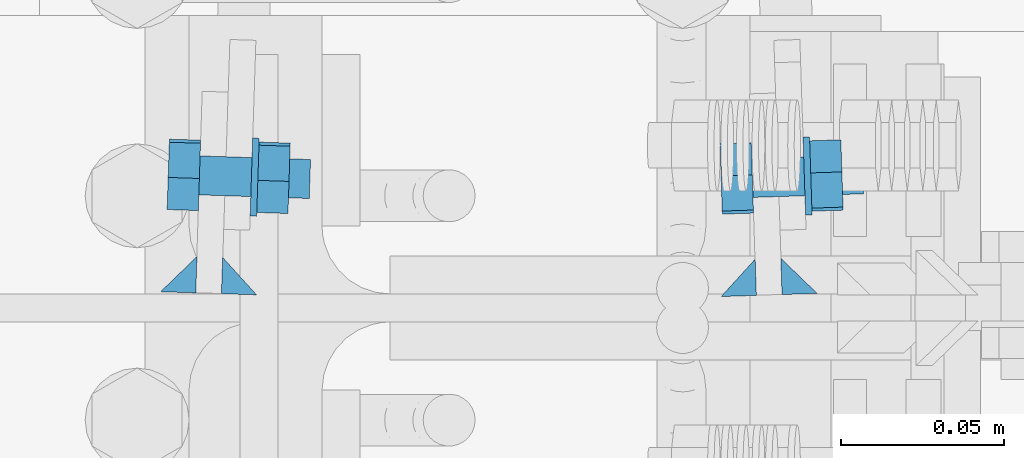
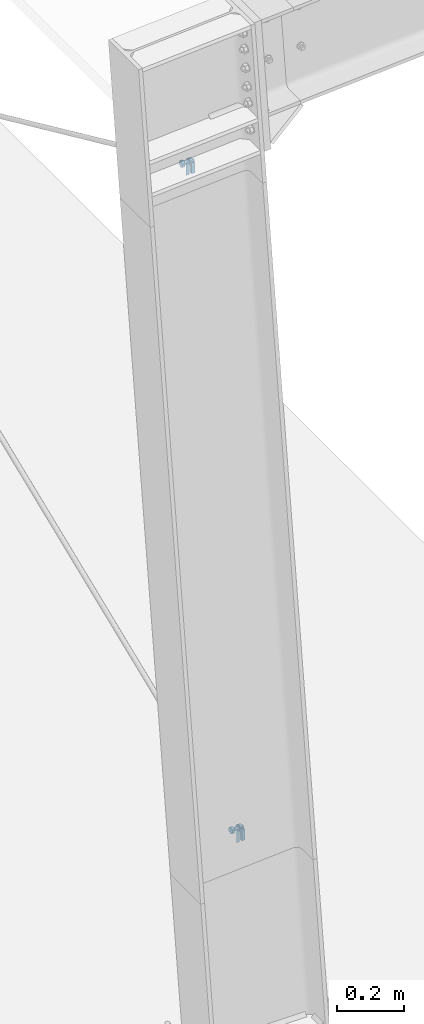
# One storey, part 25 of 72: 8 mechanical fasteners, 4 fasteners.
"""IFC4 building model written with IfcOpenShell, lengths in metres."""

import ifcopenshell
import ifcopenshell.guid

model = None  # the IFC model being written
_history = None  # IfcOwnerHistory: only IFC2X3 demands one
_inside = {}  # id of a spatial element -> (the spatial element, [elements in it])
_under = {}  # id of a project, library or spatial element -> (it, [spatial elements below it])
_declared = {}  # id of a project -> (the project, [libraries it declares])
_typed = {}  # id of a type object -> (the type object, [elements of that type])
_made_of = {}  # id of a material, layer set ... -> (it, [elements and type objects made of it])


def new_model(schema):
    """Start an empty IFC model of exactly this schema.

    Asked for "IFC4X3", IfcOpenShell would pick the latest addendum, in which some entities
    have other attributes; the version numbers below select the first issue.
    IFC2X3 requires an IfcOwnerHistory on every rooted entity: one is made here for all.
    """
    global model, _history
    if schema == "IFC4X3":
        model = ifcopenshell.file(schema_version=(4, 3, 0, 0))
    else:
        model = ifcopenshell.file(schema=schema)
    _inside.clear()
    _under.clear()
    _declared.clear()
    _typed.clear()
    _made_of.clear()
    _history = None
    if model.schema == "IFC2X3":
        org = make("IfcOrganization", Name="unknown")
        user = make(
            "IfcPersonAndOrganization",
            ThePerson=make("IfcPerson", FamilyName="unknown"),
            TheOrganization=org,
        )
        app = make(
            "IfcApplication",
            ApplicationDeveloper=org,
            Version="unknown",
            ApplicationFullName="unknown",
            ApplicationIdentifier="unknown",
        )
        _history = make(
            "IfcOwnerHistory",
            OwningUser=user,
            OwningApplication=app,
            ChangeAction="ADDED",
            CreationDate=0,
        )
    return model


def make(cls, **values):
    """One entity of the class cls with the attributes given. An attribute that is None is left unset."""
    return model.create_entity(
        cls, **{name: value for name, value in values.items() if value is not None}
    )


def rooted(cls, **values):
    """An entity with a GlobalId (a new one), such as an element, a storey or a relation."""
    return make(cls, GlobalId=ifcopenshell.guid.new(), OwnerHistory=_history, **values)


def si_unit(unit_type, name, prefix=None):
    """IfcSIUnit, for example si_unit("LENGTHUNIT", "METRE", prefix="MILLI")."""
    return make("IfcSIUnit", UnitType=unit_type, Prefix=prefix, Name=name)


def assignment(units):
    """IfcUnitAssignment: the units of a project."""
    return None if units is None else make("IfcUnitAssignment", Units=units)


def point(xyz):
    """IfcCartesianPoint."""
    return None if xyz is None else make("IfcCartesianPoint", Coordinates=xyz)


def direction(xyz):
    """IfcDirection."""
    return None if xyz is None else make("IfcDirection", DirectionRatios=xyz)


def frame(location, z_axis=None, x_axis=None):
    """IfcAxis2Placement3D, a coordinate frame: its origin and axes. An axis left out is left unset."""
    return make(
        "IfcAxis2Placement3D",
        Location=point(location),
        Axis=direction(z_axis),
        RefDirection=direction(x_axis),
    )


def origin_with_axes():
    """The frame at (0, 0, 0) with the z axis (0, 0, 1) and the x axis (1, 0, 0) written out."""
    return frame((0.0, 0.0, 0.0), z_axis=(0.0, 0.0, 1.0), x_axis=(1.0, 0.0, 0.0))


def place(relative_to, where):
    """IfcLocalPlacement: puts the frame where relative to a parent placement (None: the world)."""
    return make(
        "IfcLocalPlacement", PlacementRelTo=relative_to, RelativePlacement=where
    )


def context(
    kind, dimensions, precision=None, world=None, true_north=None, identifier=None
):
    """IfcGeometricRepresentationContext, for example the 3D "Model" context."""
    return make(
        "IfcGeometricRepresentationContext",
        ContextIdentifier=identifier,
        ContextType=kind,
        CoordinateSpaceDimension=dimensions,
        Precision=precision,
        WorldCoordinateSystem=world,
        TrueNorth=true_north,
    )


def project(units=None, contexts=None):
    """IfcProject with its units and contexts."""
    return rooted(
        "IfcProject",
        Name="project",
        RepresentationContexts=contexts,
        UnitsInContext=assignment(units),
    )


def spatial(cls, under=None, at=None, **own):
    """A site, building, storey or space (cls), placed at a placement, below another one or the project."""
    s = rooted(cls, ObjectPlacement=at, **own)
    if under is not None:
        _under.setdefault(under.id(), (under, []))[1].append(s)
    return s


def polyline(points):
    """IfcPolyline through the points."""
    return make("IfcPolyline", Points=[point(p) for p in points])


def outline(outer, holes=None, kind="AREA"):
    """IfcArbitraryClosedProfileDef: a profile drawn as a closed curve; with holes, ...WithVoids."""
    if holes is None:
        return make("IfcArbitraryClosedProfileDef", ProfileType=kind, OuterCurve=outer)
    return make(
        "IfcArbitraryProfileDefWithVoids",
        ProfileType=kind,
        OuterCurve=outer,
        InnerCurves=holes,
    )


def extrude(swept, where, along, depth):
    """IfcExtrudedAreaSolid: the profile swept, set in the frame where, extruded along a direction by depth."""
    return make(
        "IfcExtrudedAreaSolid",
        SweptArea=swept,
        Position=where,
        ExtrudedDirection=direction(along),
        Depth=depth,
    )


def shape(context_of_items, identifier, shape_type, items):
    """IfcShapeRepresentation: the items that make up one representation, for example the "Body"."""
    return make(
        "IfcShapeRepresentation",
        ContextOfItems=context_of_items,
        RepresentationIdentifier=identifier,
        RepresentationType=shape_type,
        Items=items,
    )


def made_of(thing, what):
    """Note that an element or type object is made of a material, layer set ...; save() writes the relation."""
    if what is not None:
        _made_of.setdefault(what.id(), (what, []))[1].append(thing)
    return thing


def type_object(cls, material=None, **own):
    """A type object (cls), such as IfcWallType, which elements share."""
    return made_of(rooted(cls, **own), material)


def element(
    cls,
    number,
    at=None,
    inside=None,
    cuts=None,
    type_object=None,
    material=None,
    context=None,
    identifier="Body",
    shape_type=None,
    held_by="IfcProductDefinitionShape",
    body=None,
    shapes=None,
    **own,
):
    """One element of the class cls, such as IfcWall. Its Tag is "e" and its number.

    at: its placement. inside: the storey or other place that contains it. cuts: it is an
    opening in that element (IfcRelVoidsElement). A single representation is given by context,
    identifier, shape_type and body (its items); several are given by shapes. held_by: the class
    of the entity that holds the representations. save() writes the other relations.
    """
    e = rooted(cls, Tag="e%d" % number, ObjectPlacement=at, **own)
    if body is not None:
        shapes = [shape(context, identifier, shape_type, body)]
    if shapes is not None:
        e.Representation = make(held_by, Representations=shapes)
    if inside is not None:
        _inside.setdefault(inside.id(), (inside, []))[1].append(e)
    if cuts is not None:
        rooted(
            "IfcRelVoidsElement", RelatingBuildingElement=cuts, RelatedOpeningElement=e
        )
    if type_object is not None:
        _typed.setdefault(type_object.id(), (type_object, []))[1].append(e)
    return made_of(e, material)


def aggregate(whole, parts):
    """IfcRelAggregates: a whole, such as a stair, and the parts it consists of."""
    return rooted("IfcRelAggregates", RelatingObject=whole, RelatedObjects=parts)


def save(model, path):
    """Write the relations noted so far, then the file.

    IfcRelAggregates (storeys below a building ...), IfcRelContainedInSpatialStructure (elements
    in a storey), IfcRelDefinesByType, IfcRelAssociatesMaterial and IfcRelDeclares: one each for
    every whole, place, type object, material and project.
    """
    for whole, parts in _under.values():
        aggregate(whole, parts)
    for where, things in _inside.values():
        rooted(
            "IfcRelContainedInSpatialStructure",
            RelatedElements=things,
            RelatingStructure=where,
        )
    for kind, things in _typed.values():
        rooted("IfcRelDefinesByType", RelatedObjects=things, RelatingType=kind)
    for what, things in _made_of.values():
        rooted("IfcRelAssociatesMaterial", RelatedObjects=things, RelatingMaterial=what)
    for by, libraries in _declared.values():
        rooted("IfcRelDeclares", RelatingContext=by, RelatedDefinitions=libraries)
    model.write(path)


model = new_model("IFC4")

# Units and contexts
model_context = context("Model", 3, precision=1e-05, world=origin_with_axes())
ifc_project = project(units=[si_unit("LENGTHUNIT", "METRE"), si_unit("AREAUNIT", "SQUARE_METRE"), si_unit("VOLUMEUNIT", "CUBIC_METRE"), si_unit("MASSUNIT", "GRAM", prefix="KILO"), si_unit("TIMEUNIT", "SECOND"), si_unit("PLANEANGLEUNIT", "RADIAN"), si_unit("SOLIDANGLEUNIT", "STERADIAN"), si_unit("THERMODYNAMICTEMPERATUREUNIT", "DEGREE_CELSIUS")], contexts=[model_context])

# Site, building, storey
placement_1 = place(None, origin_with_axes())
site = spatial("IfcSite", under=ifc_project, at=placement_1, Name="Italia", CompositionType="ELEMENT")
building = spatial("IfcBuilding", under=site, at=placement_1, Name="Pensilina", CompositionType="ELEMENT")
storey = spatial("IfcBuildingStorey", under=building, at=placement_1, Name="Storey 0", CompositionType="ELEMENT", Elevation=0.0)

# Mechanical fasteners
mechanical_fastener_type_1 = type_object("IfcMechanicalFastenerType", Name="Collegamento -196_-202", PredefinedType="BOLT")
placement_2 = place(placement_1, origin_with_axes())
mechanical_fastener_1_placement = place(placement_2, origin_with_axes())
element("IfcMechanicalFastener", 1, at=mechanical_fastener_1_placement, inside=storey, type_object=mechanical_fastener_type_1, Name="Collegamento -196_-202", NominalDiameter=0.012, context=model_context, shape_type="SweptSolid", body=[
    extrude(outline(polyline([(0.0, 0.0, 0.0), (0.0108352, -0.00515747, 0.0), (0.0207192, 0.00164735, 0.0), (0.0197681, 0.0136096, 0.0), (0.00893295, 0.0187671, 0.0), (-0.000951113, 0.0119622, 0.0), (0.0, 0.0, 0.0)])), frame((0.87719, 0.0498844, 0.818423), z_axis=(-0.99946516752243, -0.0327018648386, 0.0), x_axis=(0.0327018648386, -0.99946516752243, 0.0)), (0.0, 0.0, 1.0), 0.00959999),
])
mechanical_fastener_type_2 = type_object("IfcMechanicalFastenerType", Name="Collegamento -196_-202", PredefinedType="BOLT")
mechanical_fastener_2_placement = place(placement_2, origin_with_axes())
element("IfcMechanicalFastener", 2, at=mechanical_fastener_2_placement, inside=storey, type_object=mechanical_fastener_type_2, Name="Collegamento -196_-202", NominalDiameter=0.012, context=model_context, shape_type="SweptSolid", body=[
    extrude(outline(polyline([(0.0, 0.0, 0.0), (-0.000204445, -0.00155294, 0.0), (-0.000803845, -0.00300002, 0.0), (-0.00175736, -0.00424266, 0.0), (-0.003, -0.00519615, 0.0), (-0.00444709, -0.00579554, 0.0), (-0.006, -0.00599998, 0.0), (-0.00755291, -0.00579554, 0.0), (-0.009, -0.00519615, 0.0), (-0.0102426, -0.00424266, 0.0), (-0.0111962, -0.00300002, 0.0), (-0.0117956, -0.00155294, 0.0), (-0.012, 0.0, 0.0), (-0.0117956, 0.00155294, 0.0), (-0.0111962, 0.00300002, 0.0), (-0.0102426, 0.00424266, 0.0), (-0.009, 0.00519615, 0.0), (-0.00755291, 0.00579554, 0.0), (-0.006, 0.00599998, 0.0), (-0.00444709, 0.00579554, 0.0), (-0.003, 0.00519615, 0.0), (-0.00175736, 0.00424266, 0.0), (-0.000803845, 0.00300002, 0.0), (-0.000204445, 0.00155294, 0.0), (0.0, 0.0, 0.0)])), frame((0.911691, 0.0351207, 0.825228), z_axis=(-0.99946516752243, -0.032701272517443, 0.0), x_axis=(0.032701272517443, -0.99946516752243, 0.0)), (0.0, 0.0, 1.0), 0.034),
])
mechanical_fastener_type_3 = type_object("IfcMechanicalFastenerType", Name="Collegamento -196_-202", PredefinedType="BOLT")
mechanical_fastener_3_placement = place(placement_2, origin_with_axes())
element("IfcMechanicalFastener", 3, at=mechanical_fastener_3_placement, inside=storey, type_object=mechanical_fastener_type_3, Name="Collegamento -196_-202", NominalDiameter=0.012, context=model_context, shape_type="SweptSolid", body=[
    extrude(outline(polyline([(0.0, 0.0, 0.0), (0.0108352, -0.00515747, 0.0), (0.0207192, 0.00164735, 0.0), (0.0197681, 0.0136096, 0.0), (0.00893295, 0.0187671, 0.0), (-0.000951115, 0.0119622, 0.0), (0.0, 0.0, 0.0)])), frame((0.904776, 0.0507869, 0.818423), z_axis=(-0.99946516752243, -0.0327018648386, 0.0), x_axis=(0.0327018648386, -0.99946516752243, 0.0)), (0.0, 0.0, 1.0), 0.00959999),
])
mechanical_fastener_type_4 = type_object("IfcMechanicalFastenerType", Name="Collegamento -196_-202", PredefinedType="BOLT")
mechanical_fastener_4_placement = place(placement_2, origin_with_axes())
element("IfcMechanicalFastener", 4, at=mechanical_fastener_4_placement, inside=storey, type_object=mechanical_fastener_type_4, Name="Collegamento -196_-202", NominalDiameter=0.024, context=model_context, shape_type="SweptSolid", body=[
    extrude(outline(polyline([(0.0, 0.0, 0.0), (-0.000408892, -0.00310582, 0.0), (-0.0016077, -0.00599998, 0.0), (-0.00351472, -0.00848526, 0.0), (-0.006, -0.0103923, 0.0), (-0.00889417, -0.0115911, 0.0), (-0.012, -0.012, 0.0), (-0.0151058, -0.0115911, 0.0), (-0.018, -0.0103923, 0.0), (-0.0204853, -0.00848526, 0.0), (-0.0223923, -0.00599998, 0.0), (-0.0235911, -0.00310582, 0.0), (-0.024, 0.0, 0.0), (-0.0235911, 0.00310582, 0.0), (-0.0223923, 0.00599998, 0.0), (-0.0204853, 0.00848526, 0.0), (-0.018, 0.0103923, 0.0), (-0.0151058, 0.0115911, 0.0), (-0.012, 0.012, 0.0), (-0.00889417, 0.0115911, 0.0), (-0.006, 0.0103923, 0.0), (-0.00351472, 0.00848526, 0.0), (-0.0016077, 0.00599998, 0.0), (-0.000408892, 0.00310582, 0.0), (0.0, 0.0, 0.0)])), frame((0.895896, 0.0286006, 0.825228), z_axis=(-0.99946516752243, -0.032701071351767, 0.0), x_axis=(0.032701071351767, -0.99946516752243, 0.0)), (0.0, 0.0, 1.0), 0.00199997),
])

# Fasteners
fastener_type_1 = type_object("IfcFastenerType", Name="Collegamento -196_-202", PredefinedType="WELD")
fastener_1_placement = place(placement_2, origin_with_axes())
element("IfcFastener", 5, at=fastener_1_placement, inside=storey, type_object=fastener_type_1, Name="Collegamento -196_-202", context=model_context, shape_type="SweptSolid", body=[
    extrude(outline(polyline([(0.0, 0.0, 0.0), (0.010813, -0.0111977, 0.0), (-0.000354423, -0.0108324, 0.0), (0.0, 0.0, 0.0)])), frame((0.897474, 0.00447214, 0.843087), z_axis=(0.0, -4.18049638e-07, -1.0), x_axis=(0.0, 1.0, 0.0)), (0.0, 0.0, 1.0), 0.0401),
])
fastener_type_2 = type_object("IfcFastenerType", Name="Collegamento -196_-202", PredefinedType="WELD")
fastener_2_placement = place(placement_2, origin_with_axes())
element("IfcFastener", 6, at=fastener_2_placement, inside=storey, type_object=fastener_type_2, Name="Collegamento -196_-202", context=model_context, shape_type="SweptSolid", body=[
    extrude(outline(polyline([(0.0, 0.0, 0.0), (0.0115218, -0.0104669, 0.0), (0.000354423, -0.0108324, 0.0), (0.0, 0.0, 0.0)])), frame((0.867914, 0.00350493, 0.802987), z_axis=(0.0, 4.12243395e-07, 1.0), x_axis=(0.0, 1.0, 0.0)), (0.0, 0.0, 1.0), 0.0401),
])

# Mechanical fasteners
mechanical_fastener_type_5 = type_object("IfcMechanicalFastenerType", Name="Collegamento -201_-197", PredefinedType="BOLT")
mechanical_fastener_5_placement = place(placement_2, origin_with_axes())
element("IfcMechanicalFastener", 7, at=mechanical_fastener_5_placement, inside=storey, type_object=mechanical_fastener_type_5, Name="Collegamento -201_-197", NominalDiameter=0.0119999, context=model_context, shape_type="SweptSolid", body=[
    extrude(outline(polyline([(0.0, 0.0, 0.0), (0.0108352, 0.00515747, 0.0), (0.0117863, 0.0171196, 0.0), (0.00190223, 0.0239244, 0.0), (-0.00893293, 0.0187671, 0.0), (-0.00988406, 0.0068047, 0.0), (0.0, 0.0, 0.0)])), frame((0.707433, 0.0417411, 3.28936), z_axis=(-0.99946516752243, 0.032701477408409, 0.0), x_axis=(-0.032701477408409, -0.99946516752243, 0.0)), (0.0, 0.0, 1.0), 0.00959999),
])
mechanical_fastener_type_6 = type_object("IfcMechanicalFastenerType", Name="Collegamento -201_-197", PredefinedType="BOLT")
mechanical_fastener_6_placement = place(placement_2, origin_with_axes())
element("IfcMechanicalFastener", 8, at=mechanical_fastener_6_placement, inside=storey, type_object=mechanical_fastener_type_6, Name="Collegamento -201_-197", NominalDiameter=0.012, context=model_context, shape_type="SweptSolid", body=[
    extrude(outline(polyline([(0.0, 0.0, 0.0), (-0.000204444, -0.00155282, 0.0), (-0.000803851, -0.00300002, 0.0), (-0.00175736, -0.00424266, 0.0), (-0.003, -0.00519609, 0.0), (-0.00444709, -0.00579548, 0.0), (-0.006, -0.00600004, 0.0), (-0.00755291, -0.00579548, 0.0), (-0.009, -0.00519609, 0.0), (-0.0102426, -0.00424266, 0.0), (-0.0111962, -0.00300002, 0.0), (-0.0117956, -0.00155282, 0.0), (-0.012, 0.0, 0.0), (-0.0117956, 0.00155282, 0.0), (-0.0111962, 0.00300002, 0.0), (-0.0102426, 0.00424266, 0.0), (-0.009, 0.00519609, 0.0), (-0.00755291, 0.00579548, 0.0), (-0.006, 0.00600004, 0.0), (-0.00444709, 0.00579548, 0.0), (-0.003, 0.00519609, 0.0), (-0.00175736, 0.00424266, 0.0), (-0.000803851, 0.00300002, 0.0), (-0.000204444, 0.00155282, 0.0), (0.0, 0.0, 0.0)])), frame((0.741187, 0.0336819, 3.30132), z_axis=(-0.99946516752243, 0.032701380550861, 0.0), x_axis=(-0.032701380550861, -0.99946516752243, 0.0)), (0.0, 0.0, 1.0), 0.034),
])
mechanical_fastener_type_7 = type_object("IfcMechanicalFastenerType", Name="Collegamento -201_-197", PredefinedType="BOLT")
mechanical_fastener_7_placement = place(placement_2, origin_with_axes())
element("IfcMechanicalFastener", 9, at=mechanical_fastener_7_placement, inside=storey, type_object=mechanical_fastener_type_7, Name="Collegamento -201_-197", NominalDiameter=0.0119999, context=model_context, shape_type="SweptSolid", body=[
    extrude(outline(polyline([(0.0, 0.0, 0.0), (0.0108352, 0.00515747, 0.0), (0.0117863, 0.0171196, 0.0), (0.00190223, 0.0239244, 0.0), (-0.00893293, 0.0187671, 0.0), (-0.00988405, 0.0068047, 0.0), (0.0, 0.0, 0.0)])), frame((0.735018, 0.0408385, 3.28936), z_axis=(-0.99946516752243, 0.032701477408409, 0.0), x_axis=(-0.032701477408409, -0.99946516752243, 0.0)), (0.0, 0.0, 1.0), 0.00959999),
])
mechanical_fastener_type_8 = type_object("IfcMechanicalFastenerType", Name="Collegamento -201_-197", PredefinedType="BOLT")
mechanical_fastener_8_placement = place(placement_2, origin_with_axes())
element("IfcMechanicalFastener", 10, at=mechanical_fastener_8_placement, inside=storey, type_object=mechanical_fastener_type_8, Name="Collegamento -201_-197", NominalDiameter=0.024, context=model_context, shape_type="SweptSolid", body=[
    extrude(outline(polyline([(0.0, 0.0, 0.0), (-0.000408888, -0.00310588, 0.0), (-0.00160769, -0.00600004, 0.0), (-0.00351472, -0.00848532, 0.0), (-0.006, -0.0103922, 0.0), (-0.00889417, -0.0115912, 0.0), (-0.012, -0.0120001, 0.0), (-0.0151058, -0.0115912, 0.0), (-0.018, -0.0103922, 0.0), (-0.0204853, -0.00848532, 0.0), (-0.0223923, -0.00600004, 0.0), (-0.0235911, -0.00310588, 0.0), (-0.024, 0.0, 0.0), (-0.0235911, 0.00310588, 0.0), (-0.0223923, 0.00600004, 0.0), (-0.0204853, 0.00848532, 0.0), (-0.018, 0.0103922, 0.0), (-0.0151058, 0.0115912, 0.0), (-0.012, 0.0120001, 0.0), (-0.00889417, 0.0115912, 0.0), (-0.006, 0.0103922, 0.0), (-0.00351472, 0.00848532, 0.0), (-0.00160769, 0.00600004, 0.0), (-0.000408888, 0.00310588, 0.0), (0.0, 0.0, 0.0)])), frame((0.725, 0.0282083, 3.30132), z_axis=(-0.999465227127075, 0.032700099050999, 0.0), x_axis=(-0.032700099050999, -0.999465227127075, 0.0)), (0.0, 0.0, 1.0), 0.00200003),
])

# Fasteners
fastener_type_3 = type_object("IfcFastenerType", Name="Collegamento -201_-197", PredefinedType="WELD")
fastener_3_placement = place(placement_2, origin_with_axes())
element("IfcFastener", 11, at=fastener_3_placement, inside=storey, type_object=fastener_type_3, Name="Collegamento -201_-197", context=model_context, shape_type="SweptSolid", body=[
    extrude(outline(polyline([(0.0, 0.0, 0.0), (0.0115218, -0.010467, 0.0), (0.000354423, -0.0108324, 0.0), (0.0, 0.0, 0.0)])), frame((0.724997, 0.00402816, 3.32256), z_axis=(0.0, -2.3224807e-07, -1.0), x_axis=(0.0, 1.0, 0.0)), (0.0, 0.0, 1.0), 0.0401003),
])
fastener_type_4 = type_object("IfcFastenerType", Name="Collegamento -201_-197", PredefinedType="WELD")
fastener_4_placement = place(placement_2, origin_with_axes())
element("IfcFastener", 12, at=fastener_4_placement, inside=storey, type_object=fastener_type_4, Name="Collegamento -201_-197", context=model_context, shape_type="SweptSolid", body=[
    extrude(outline(polyline([(0.0, 0.0, 0.0), (0.010813, -0.0111977, 0.0), (-0.000354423, -0.0108324, 0.0), (0.0, 0.0, 0.0)])), frame((0.695437, 0.00499533, 3.28246), z_axis=(0.0, 2.43859034e-07, 1.0), x_axis=(0.0, 1.0, 0.0)), (0.0, 0.0, 1.0), 0.0401006),
])

save(model, "model.ifc")
